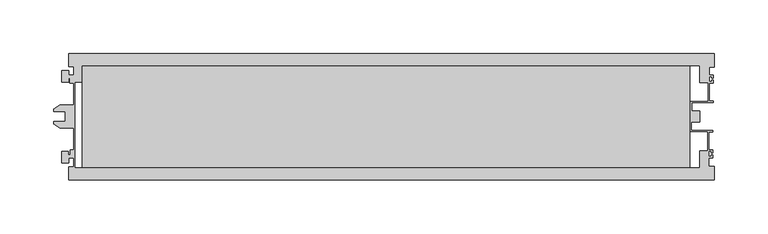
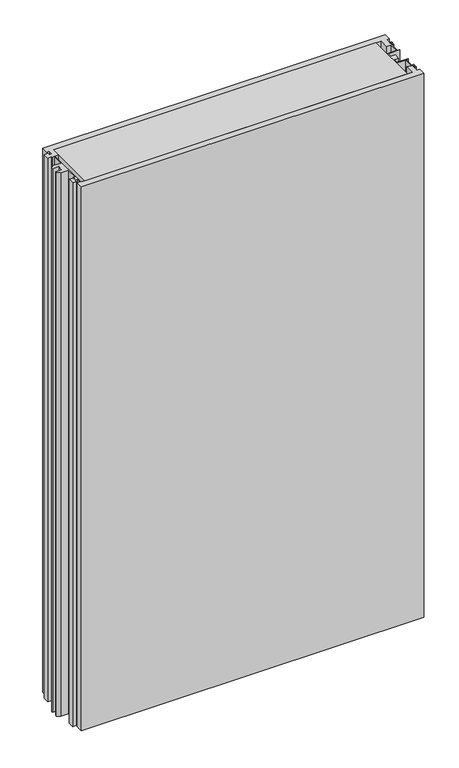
"""IFC4 building model written with IfcOpenShell, lengths in millimetres: plate geometry, Walls_External-Walls_Danpal_Danpatherm-K12 : Walls_External-Walls_Danpal_Danpatherm-K12."""

from ifc_helpers import new_model, si_unit, frame, origin, place, context, project, spatial, polyline, outline, extrude, source, transform, mapped, element, save


def plate_925df577(model_context):
    return source(origin(), model_context, "Body", "SweptSolid", [
        extrude(outline(polyline([(274.6184743, -11.5), (274.6184743, -105.9), (-289.8606362, -105.9), (-289.8606362, -11.5), (274.6184743, -11.5)])), frame((0.0, 0.0, -29.0), z_axis=(0.0, 0.0, 1.0), x_axis=(1.0, 0.0, 0.0)), (0.0, 0.0, 1.0), 1007.2059038),
        extrude(outline(polyline([(-302.5, 0.0), (297.5, 0.0), (297.5, -12.326688), (292.9651236, -12.3834733), (292.9652129, -19.8250352), (296.5652394, -19.8250352), (296.5652394, -22.6250436), (295.2652287, -22.6250436), (295.2652287, -21.1250724), (292.8652849, -21.1250724), (292.8652849, -26.1250508), (295.2652706, -26.1250508), (295.2652706, -24.6250436), (296.565297, -24.6250436), (296.565297, -27.4250712), (292.9653041, -27.4250712), (292.9655056, -44.2251011), (296.5655022, -44.2251011), (296.5655022, -45.5250406), (276.8654904, -45.5250406), (276.8654904, -53.3499188), (283.9999848, -53.3499188), (283.9999848, -63.5500812), (276.2999848, -63.5500812), (276.2999848, -71.3749594), (295.9999965, -71.3749594), (295.9999965, -72.6749349), (292.4, -72.6749349), (292.4, -89.4749648), (295.9999965, -89.4749648), (295.9999965, -92.2749648), (294.6999965, -92.2749648), (294.6999965, -90.7749648), (292.3, -90.7749648), (292.3, -95.7749648), (294.6999965, -95.7749648), (294.6999965, -94.2749648), (295.9999965, -94.2749648), (295.9999965, -97.0749648), (292.4, -97.0749648), (292.4, -104.9), (297.5, -104.9), (297.5, -117.4), (-302.5, -117.4), (-302.5, -105.4), (-297.4, -105.4), (-297.4, -97.0749648), (-302.4526316, -97.0749648), (-302.4526316, -101.6302279), (-308.9, -101.6302279), (-308.9, -91.0381227), (-302.5127555, -91.0381227), (-302.5127555, -94.0775963), (-300.9999965, -94.0775963), (-300.9999965, -89.4749648), (-297.4, -89.4749648), (-297.4, -69.2982521), (-310.7714928, -69.2982521), (-316.1600052, -65.3713202), (-316.1600052, -63.1232521), (-305.3266718, -63.1232521), (-305.3266718, -53.8499188), (-316.1600052, -53.8499188), (-316.1600052, -51.6018507), (-310.7714928, -47.6749188), (-297.7, -47.6749188), (-297.7, -27.4235008), (-301.407343, -27.4235008), (-301.407343, -22.8208692), (-302.5, -22.8208692), (-302.5, -26.3618773), (-308.8872445, -26.3618773), (-308.8872445, -15.7697721), (-302.439876, -15.7697721), (-302.439876, -19.8235008), (-297.8073464, -19.8235008), (-297.8073464, -12.0), (-302.5, -12.0), (-302.5, 0.0)]), holes=[polyline([(283.6999848, -11.5), (-289.8606362, -11.5), (-289.8606362, -27.0), (-296.4452172, -27.0), (-296.4452172, -105.9), (283.4884259, -105.9), (283.5512195, -89.9), (291.0, -89.9), (291.0, -72.9749349), (274.6184743, -72.9749349), (274.6184743, -44.143617), (291.5655046, -44.143617), (291.5655046, -27.4021751), (283.66868, -27.5010583), (283.6999848, -11.5)])]), frame((0.0, 0.0, -29.0), z_axis=(0.0, 0.0, 1.0), x_axis=(1.0, 0.0, 0.0)), (0.0, 0.0, 1.0), 1007.2059038),
    ])


if __name__ == "__main__":
    model = new_model("IFC4")
    model_context = context("Model", 3, world=origin())
    ifc_project = project(units=[si_unit("LENGTHUNIT", "METRE", prefix="MILLI")], contexts=[model_context])
    site = spatial("IfcSite", under=ifc_project)
    building = spatial("IfcBuilding", under=site)
    placement = place(None, origin())
    plate_shape = plate_925df577(model_context)
    element("IfcPlate", 1, ObjectType="Walls_External-Walls_Danpal_Danpatherm-K12 : Walls_External-Walls_Danpal_Danpatherm-K12", at=placement, inside=building, context=model_context, shape_type="MappedRepresentation", body=[
        mapped(plate_shape, transform((0.0, 0.0, 0.0), x_axis=(1.0, 0.0, 0.0), y_axis=(0.0, 1.0, 0.0), z_axis=(0.0, 0.0, 1.0))),
    ])
    save(model, "model.ifc")
